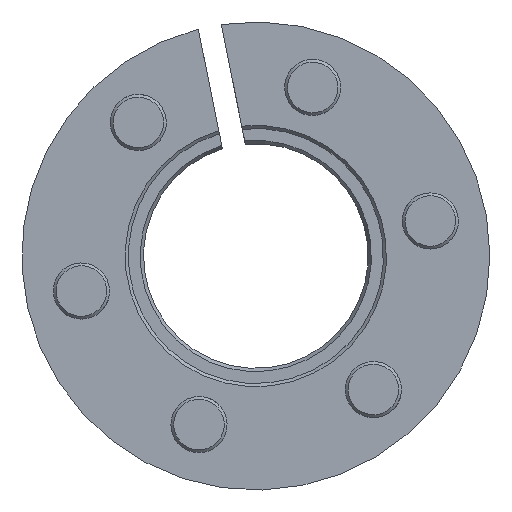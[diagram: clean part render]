
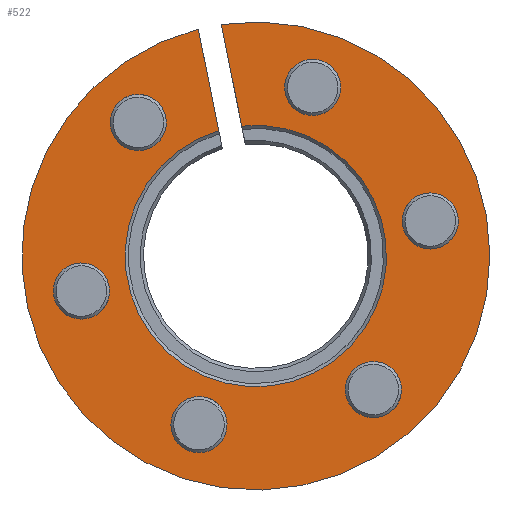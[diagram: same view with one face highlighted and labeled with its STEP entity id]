
A CAD part, left-side view. The second image highlights one B-rep face of the part: STEP entity #522.
In plain terms, the highlighted planar face has unit normal (-1, 0, 0) as drawn and (1, 0, 0) by its records, which use the part's own axes.
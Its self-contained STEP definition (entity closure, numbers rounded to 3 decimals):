
#112=CARTESIAN_POINT('',(17.,15.5,19.454));
#113=VERTEX_POINT('',#112);
#114=CARTESIAN_POINT('',(17.,15.5,16.454));
#115=DIRECTION('',(-1.0,0.0,0.0));
#116=DIRECTION('',(0.0,0.0,-1.0));
#117=AXIS2_PLACEMENT_3D('',#114,#115,#116);
#118=CIRCLE('',#117,3.0);
#119=EDGE_CURVE('',#113,#113,#118,.T.);
#140=CARTESIAN_POINT('',(17.,34.5,19.454));
#141=VERTEX_POINT('',#140);
#142=CARTESIAN_POINT('',(17.,34.5,16.454));
#143=DIRECTION('',(-1.0,0.0,0.0));
#144=DIRECTION('',(0.0,0.0,-1.0));
#145=AXIS2_PLACEMENT_3D('',#142,#143,#144);
#146=CIRCLE('',#145,3.0);
#147=EDGE_CURVE('',#141,#141,#146,.T.);
#168=CARTESIAN_POINT('',(17.,6.,3.));
#169=VERTEX_POINT('',#168);
#170=CARTESIAN_POINT('',(17.,6.,0.0));
#171=DIRECTION('',(-1.0,0.0,0.0));
#172=DIRECTION('',(0.0,0.0,-1.0));
#173=AXIS2_PLACEMENT_3D('',#170,#171,#172);
#174=CIRCLE('',#173,3.);
#175=EDGE_CURVE('',#169,#169,#174,.T.);
#221=CARTESIAN_POINT('',(17.,26.25,-24.969));
#222=VERTEX_POINT('',#221);
#229=CARTESIAN_POINT('',(17.,26.25,-13.904));
#230=VERTEX_POINT('',#229);
#231=CARTESIAN_POINT('',(17.,26.25,-13.904));
#232=DIRECTION('',(0.0,0.0,-1.0));
#233=VECTOR('',#232,11.065);
#234=LINE('',#231,#233);
#235=EDGE_CURVE('',#230,#222,#234,.T.);
#321=CARTESIAN_POINT('',(17.,23.75,-13.904));
#322=VERTEX_POINT('',#321);
#336=CARTESIAN_POINT('',(17.,23.75,-24.969));
#337=VERTEX_POINT('',#336);
#338=CARTESIAN_POINT('',(17.,23.75,-24.969));
#339=DIRECTION('',(0.0,0.0,1.0));
#340=VECTOR('',#339,11.065);
#341=LINE('',#338,#340);
#342=EDGE_CURVE('',#337,#322,#341,.T.);
#366=CARTESIAN_POINT('',(17.,44.0,3.));
#367=VERTEX_POINT('',#366);
#368=CARTESIAN_POINT('',(17.,44.0,0.0));
#369=DIRECTION('',(-1.0,0.0,0.0));
#370=DIRECTION('',(0.0,0.0,-1.0));
#371=AXIS2_PLACEMENT_3D('',#368,#369,#370);
#372=CIRCLE('',#371,3.);
#373=EDGE_CURVE('',#367,#367,#372,.T.);
#394=CARTESIAN_POINT('',(17.,34.5,-13.454));
#395=VERTEX_POINT('',#394);
#396=CARTESIAN_POINT('',(17.,34.5,-16.454));
#397=DIRECTION('',(-1.0,0.0,0.0));
#398=DIRECTION('',(0.0,0.0,-1.0));
#399=AXIS2_PLACEMENT_3D('',#396,#397,#398);
#400=CIRCLE('',#399,3.0);
#401=EDGE_CURVE('',#395,#395,#400,.T.);
#422=CARTESIAN_POINT('',(17.,15.5,-13.454));
#423=VERTEX_POINT('',#422);
#424=CARTESIAN_POINT('',(17.,15.5,-16.454));
#425=DIRECTION('',(-1.0,0.0,0.0));
#426=DIRECTION('',(0.0,0.0,-1.0));
#427=AXIS2_PLACEMENT_3D('',#424,#425,#426);
#428=CIRCLE('',#427,3.);
#429=EDGE_CURVE('',#423,#423,#428,.T.);
#459=CARTESIAN_POINT('',(17.,25.,0.0));
#460=DIRECTION('',(-1.0,0.0,0.0));
#461=DIRECTION('',(0.0,-1.0,0.0));
#462=AXIS2_PLACEMENT_3D('',#459,#460,#461);
#463=CIRCLE('',#462,25.);
#464=EDGE_CURVE('',#337,#222,#463,.T.);
#475=CARTESIAN_POINT('',(17.,25.,0.0));
#476=DIRECTION('',(-1.0,0.0,0.0));
#477=DIRECTION('',(0.0,-1.0,0.0));
#478=AXIS2_PLACEMENT_3D('',#475,#476,#477);
#479=CIRCLE('',#478,13.96);
#480=EDGE_CURVE('',#322,#230,#479,.T.);
#493=CARTESIAN_POINT('',(17.,5.52,0.0));
#494=DIRECTION('',(1.0,0.0,0.0));
#495=DIRECTION('',(0.0,0.0,-1.0));
#496=AXIS2_PLACEMENT_3D('',#493,#494,#495);
#497=PLANE('',#496);
#498=ORIENTED_EDGE('',*,*,#235,.T.);
#499=ORIENTED_EDGE('',*,*,#464,.F.);
#500=ORIENTED_EDGE('',*,*,#342,.T.);
#501=ORIENTED_EDGE('',*,*,#480,.T.);
#502=EDGE_LOOP('',(#498,#499,#500,#501));
#503=FACE_OUTER_BOUND('',#502,.T.);
#504=ORIENTED_EDGE('',*,*,#429,.T.);
#505=EDGE_LOOP('',(#504));
#506=FACE_BOUND('',#505,.T.);
#507=ORIENTED_EDGE('',*,*,#401,.T.);
#508=EDGE_LOOP('',(#507));
#509=FACE_BOUND('',#508,.T.);
#510=ORIENTED_EDGE('',*,*,#373,.T.);
#511=EDGE_LOOP('',(#510));
#512=FACE_BOUND('',#511,.T.);
#513=ORIENTED_EDGE('',*,*,#175,.T.);
#514=EDGE_LOOP('',(#513));
#515=FACE_BOUND('',#514,.T.);
#516=ORIENTED_EDGE('',*,*,#147,.T.);
#517=EDGE_LOOP('',(#516));
#518=FACE_BOUND('',#517,.T.);
#519=ORIENTED_EDGE('',*,*,#119,.T.);
#520=EDGE_LOOP('',(#519));
#521=FACE_BOUND('',#520,.T.);
#522=ADVANCED_FACE('',(#503,#506,#509,#512,#515,#518,#521),#497,.T.);
